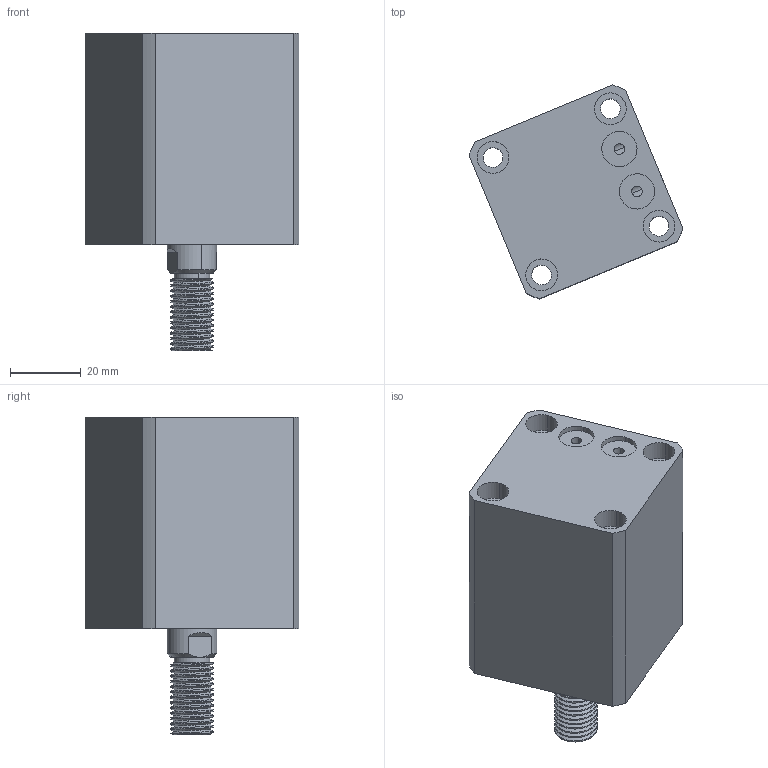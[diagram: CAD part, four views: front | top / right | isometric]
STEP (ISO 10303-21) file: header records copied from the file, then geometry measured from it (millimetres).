
FILE_DESCRIPTION (( 'STEP AP214' ), '1' );
FILE_NAME ('chtb-sdmb25x15w_asm.STEP', '2018-05-24T02:13:01', ( 'Windows' ), ( 'Microsoft' ), 'SwSTEP 2.0', 'SolidWorks 2015', '' );
FILE_SCHEMA (( 'AUTOMOTIVE_DESIGN' ));
Length unit declared in the file: millimetre
Products named in the file (4): CHTB-SDMB25X15WHSG; CHTB-SDMB25X15NBT; CHTB-25QG; chtb-sdmb25x15w_asm
Assembly tree (3 placements, depth 2):
  chtb-sdmb25x15w_asm
    CHTB-25QG
    CHTB-SDMB25X15NBT
    CHTB-SDMB25X15WHSG
Bounding box: 60.55 x 60.55 x 90 mm (x, y, z)
Volume: 126274.4 mm3; surface area: 36217.6 mm2
Topology: 3 solids, 3 shells, 176 faces, 476 edges, 323 vertices
Faces by surface type: cylinder 118, plane 37, bspline 12, cone 9
Entity records: 10721 total; most frequent: CARTESIAN_POINT 6406, ORIENTED_EDGE 944, DIRECTION 765, EDGE_CURVE 472, VERTEX_POINT 323, AXIS2_PLACEMENT_3D 310, EDGE_LOOP 215, FACE_OUTER_BOUND 176
